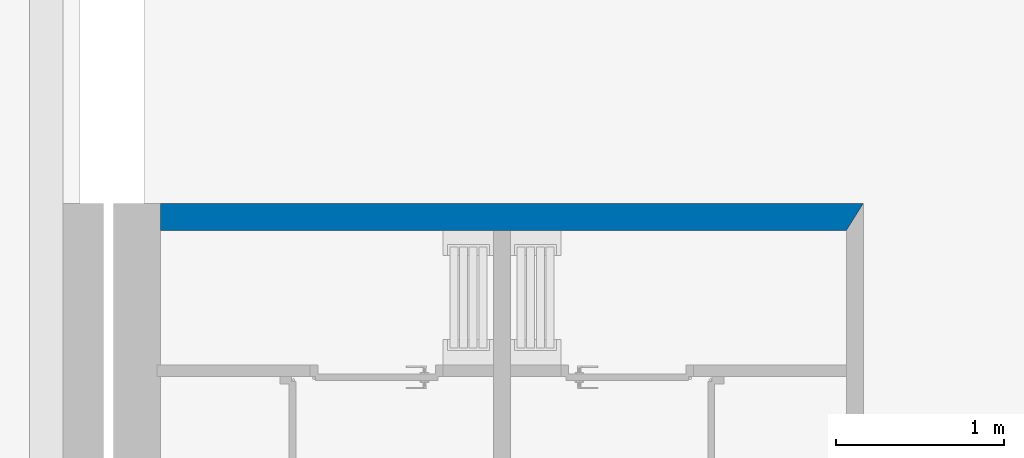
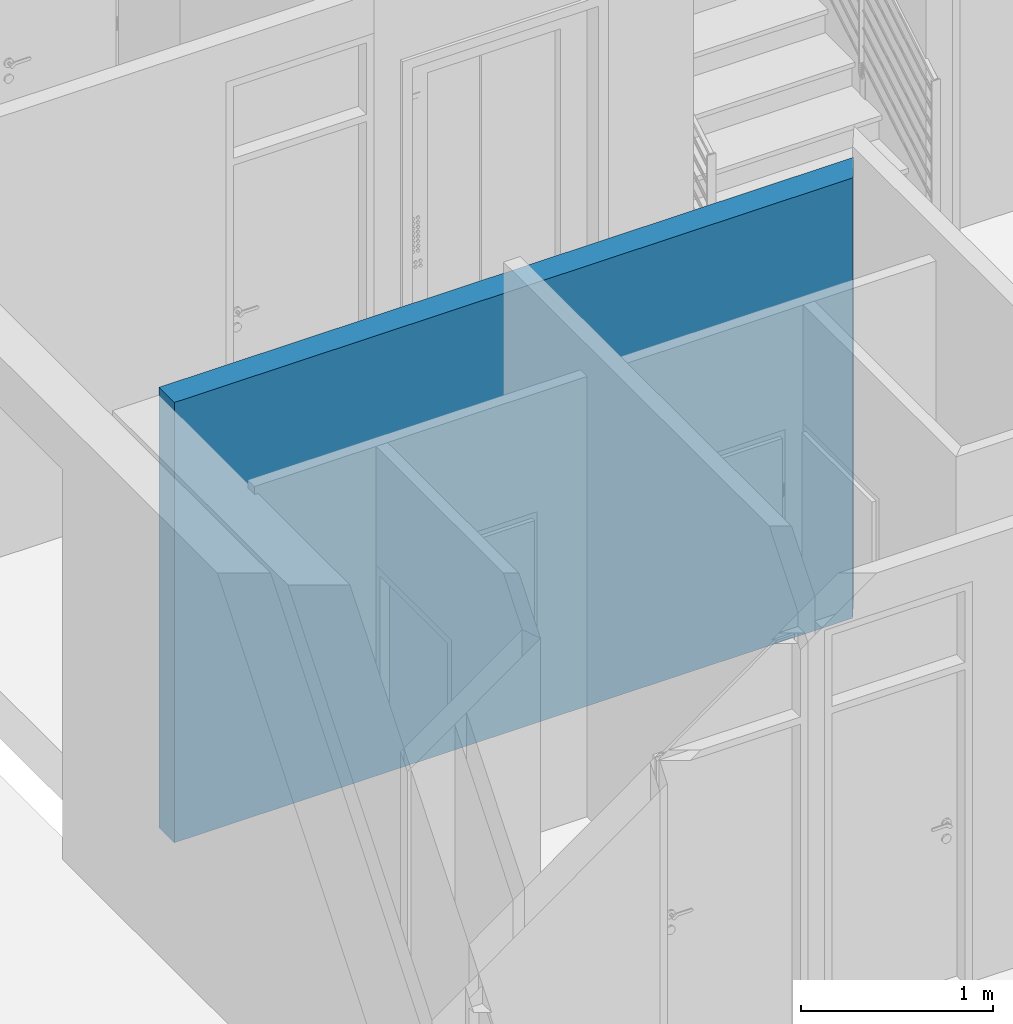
# One storey, part 7 of 45: 1 wall.
"""IFC2X3 building model written with IfcOpenShell, lengths in metres."""

from ifc_helpers import new_model, entity, si_unit, converted_unit, money_unit, direction, frame, origin_with_axes, place, context, subcontext, project, spatial, polyline, outline, extrude, material, layer, layer_set, layer_usage, type_object, element, save


model = new_model("IFC2X3")

# Units and contexts
model_context = context("Model", 3, precision=1e-05, world=origin_with_axes(), true_north=direction((0.0, 1.0)))
body_context = subcontext(model_context, "Body", "Model", "MODEL_VIEW")
ifc_project = project(units=[si_unit("LENGTHUNIT", "METRE"), si_unit("AREAUNIT", "SQUARE_METRE"), si_unit("VOLUMEUNIT", "CUBIC_METRE"), converted_unit("PLANEANGLEUNIT", "DEGREE", entity("IfcPlaneAngleMeasure", 0.0174532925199), si_unit("PLANEANGLEUNIT", "RADIAN"), dimensions=[0, 0, 0, 0, 0, 0, 0]), si_unit("SOLIDANGLEUNIT", "STERADIAN"), money_unit("EUR"), converted_unit("TIMEUNIT", "Year", entity("IfcTimeMeasure", 31556926.0), si_unit("TIMEUNIT", "SECOND"), dimensions=[0, 0, 0, 0, 0, 0, 0]), si_unit("MASSUNIT", "GRAM"), si_unit("THERMODYNAMICTEMPERATUREUNIT", "DEGREE_CELSIUS"), si_unit("LUMINOUSINTENSITYUNIT", "LUMEN")], contexts=[model_context])

# Site, building, storey
site_placement = place(None, origin_with_axes())
site = spatial("IfcSite", under=ifc_project, at=site_placement, Name="Site", CompositionType="ELEMENT")
building_placement = place(site_placement, origin_with_axes())
building = spatial("IfcBuilding", under=site, at=building_placement, Name="Bâtiment", CompositionType="ELEMENT")
storey_placement = place(building_placement, origin_with_axes())
storey = spatial("IfcBuildingStorey", under=building, at=storey_placement, Name="NIVEAU BAS GYMNASE", CompositionType="ELEMENT", Elevation=0.0)

# Wall
ifc_material = material(Name="Hachure solide* 4022991772")
ifc_layer = layer(ifc_material, 0.16, ventilated="UNKNOWN")
ifc_layer_set = layer_set([ifc_layer], Name="Hachure solide* 4022991772 0.16")
ifc_layer_usage = layer_usage(ifc_layer_set, "AXIS2", "POSITIVE", -0.16)
wall_type = type_object("IfcWallType", Name="Hachure solide* 4022991772 160", PredefinedType="NOTDEFINED")
wall_placement = place(storey_placement, frame((49.838457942, 13.108815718, 0.0), z_axis=(0.0, 0.0, 1.0), x_axis=(-1.0, 0.0, 0.0)))
element("IfcWallStandardCase", 1, at=wall_placement, inside=storey, type_object=wall_type, material=ifc_layer_usage, Name="Mur-004", context=body_context, shape_type="SweptSolid", body=[
    extrude(outline(polyline([(-0.1, -0.16), (4.08, -0.16), (4.08, 0.0), (0.0, 0.0), (-0.1, -0.16)])), origin_with_axes(), (0.0, 0.0, 1.0), 2.8),
])

save(model, "model.ifc")
